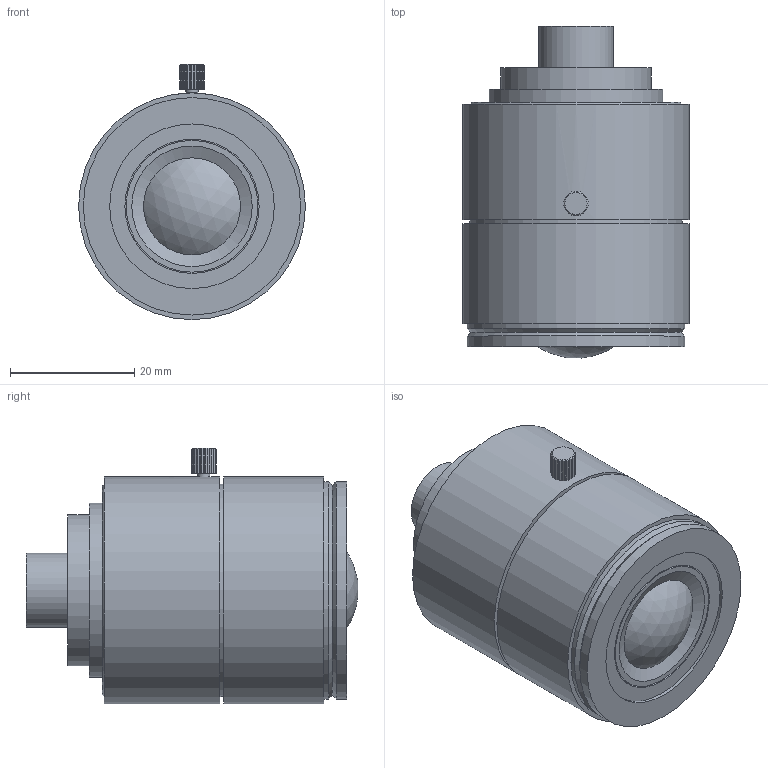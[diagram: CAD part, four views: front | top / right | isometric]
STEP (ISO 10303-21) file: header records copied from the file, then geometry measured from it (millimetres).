
FILE_DESCRIPTION(('STEP AP214'),'1');
FILE_NAME('MY23F.stp','2026-07-09T06:05:08',(' '),(' '),'Spatial InterOp 3D',' ',' ');
FILE_SCHEMA(('AUTOMOTIVE_DESIGN { 1 0 10303 214 1 1 1 1 }'));
Length unit declared in the file: metre
Products named in the file (2): MY23F; Component1
Assembly tree (1 placements, depth 2):
  MY23F
    Component1
Bounding box: 36.5 x 53.42 x 41.1 mm (x, y, z)
Volume: 43839.4 mm3; surface area: 8136.1 mm2
Topology: 1 solids, 2 shells, 98 faces, 231 edges, 154 vertices
Faces by surface type: plane 56, cylinder 35, cone 6, sphere 1
Full cylindrical faces by diameter (mm): 2 x2, 5.3 x1, 10.5 x1, 12 x1, 21 x1, 21.2 x1, 21.6 x1, 22.5 x1, 24.3 x1, 26.5 x1, 28 x1, 34.2 x1, 35 x2, 36.5 x2
Entity records: 3587 total; most frequent: CARTESIAN_POINT 594, DIRECTION 444, ORIENTED_EDGE 408, EDGE_CURVE 204, AXIS2_PLACEMENT_3D 177, VERTEX_POINT 151, EDGE_LOOP 140, FACE_OUTER_BOUND 115
